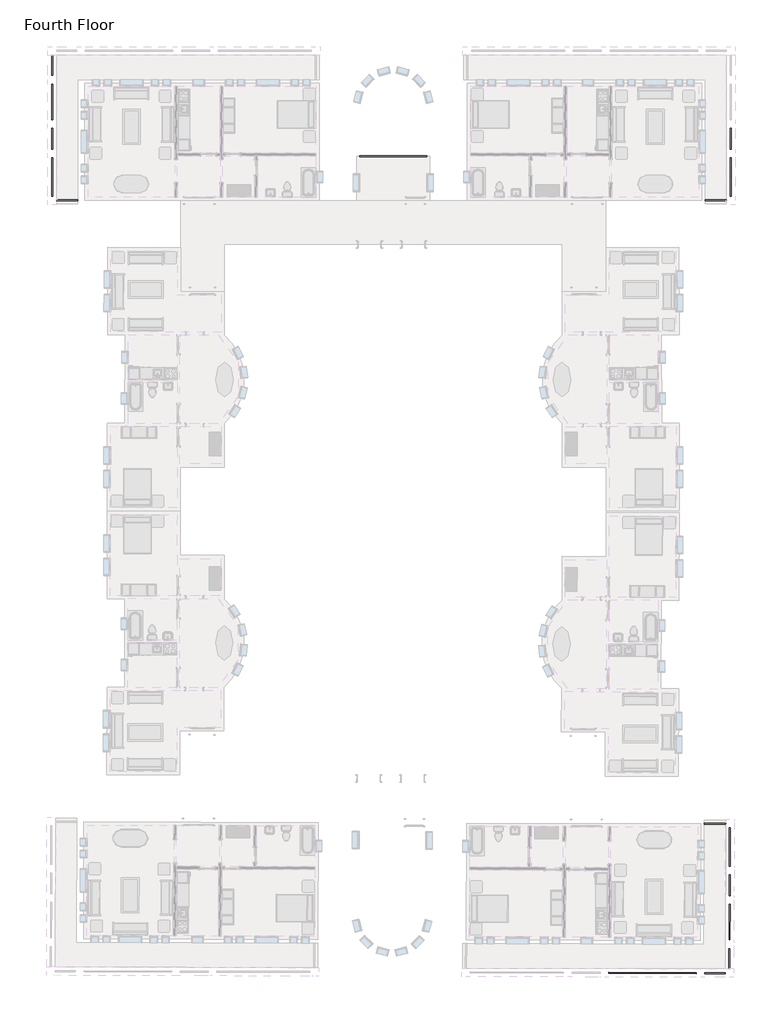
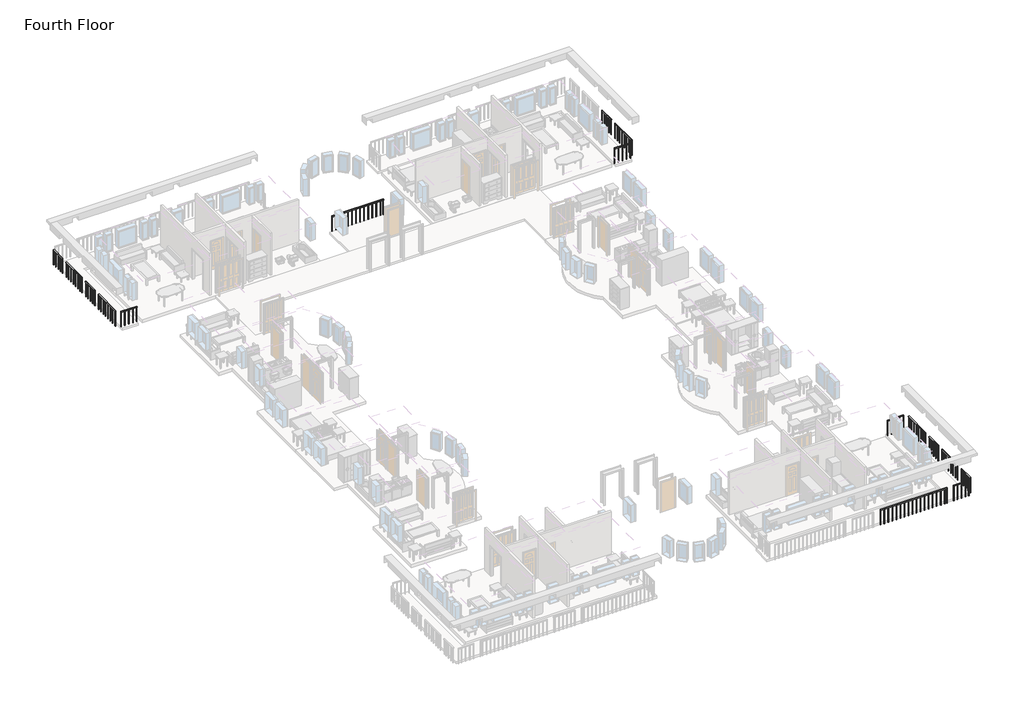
# One storey, part 5 of 8: 16 railings.
"""IFC4 building model written with IfcOpenShell, lengths in millimetres."""

from ifc_helpers import new_model, si_unit, frame, origin, place, context, project, spatial, polyline, outline, extrude, element, save

model = new_model("IFC4")

# Units and contexts
model_context = context("Model", 3, world=origin())
ifc_project = project(units=[si_unit("LENGTHUNIT", "METRE", prefix="MILLI")], contexts=[model_context])

# Site, building, storey
site = spatial("IfcSite", under=ifc_project)
building = spatial("IfcBuilding", under=site)
storey = spatial("IfcBuildingStorey", under=building, Name="Fourth Floor", Elevation=9144.0)

# Railings
placement = place(None, origin())
element("IfcRailing", 1, ObjectType="1100mm", at=placement, inside=storey, context=model_context, shape_type="SweptSolid", body=[
    extrude(outline(polyline([(-1443.3416203, 231.1188386), (-1393.3416203, 231.1188386), (-1393.3416203, -845.3811614), (-1443.3416203, -845.3811614), (-1443.3416203, 231.1188386)])), frame((0.0, 0.0, 10194.0), z_axis=(0.0, 0.0, 1.0), x_axis=(1.0, 0.0, 0.0)), (0.0, 0.0, 1.0), 50.0),
    extrude(outline(polyline([(-1430.8416203, -581.3811614), (-1405.8416203, -581.3811614), (-1405.8416203, -606.3811614), (-1430.8416203, -606.3811614), (-1430.8416203, -581.3811614)])), frame((0.0, 0.0, 9144.0), z_axis=(0.0, 0.0, 1.0), x_axis=(1.0, 0.0, 0.0)), (0.0, 0.0, 1.0), 1050.0),
    extrude(outline(polyline([(-1430.8416203, -306.3811614), (-1405.8416203, -306.3811614), (-1405.8416203, -331.3811614), (-1430.8416203, -331.3811614), (-1430.8416203, -306.3811614)])), frame((0.0, 0.0, 9144.0), z_axis=(0.0, 0.0, 1.0), x_axis=(1.0, 0.0, 0.0)), (0.0, 0.0, 1.0), 1050.0),
    extrude(outline(polyline([(-1430.8416203, -31.3811614), (-1405.8416203, -31.3811614), (-1405.8416203, -56.3811614), (-1430.8416203, -56.3811614), (-1430.8416203, -31.3811614)])), frame((0.0, 0.0, 9144.0), z_axis=(0.0, 0.0, 1.0), x_axis=(1.0, 0.0, 0.0)), (0.0, 0.0, 1.0), 1050.0),
    extrude(outline(polyline([(-1430.8416203, -820.3811614), (-1405.8416203, -820.3811614), (-1405.8416203, -845.3811614), (-1430.8416203, -845.3811614), (-1430.8416203, -820.3811614)])), frame((0.0, 0.0, 9144.0), z_axis=(0.0, 0.0, 1.0), x_axis=(1.0, 0.0, 0.0)), (0.0, 0.0, 1.0), 1050.0),
    extrude(outline(polyline([(-1430.8416203, 231.1188386), (-1405.8416203, 231.1188386), (-1405.8416203, 206.1188386), (-1430.8416203, 206.1188386), (-1430.8416203, 231.1188386)])), frame((0.0, 0.0, 9144.0), z_axis=(0.0, 0.0, 1.0), x_axis=(1.0, 0.0, 0.0)), (0.0, 0.0, 1.0), 1050.0),
])
element("IfcRailing", 2, ObjectType="1100mm", at=placement, inside=storey, context=model_context, shape_type="SweptSolid", body=[
    extrude(outline(polyline([(-1443.3416203, -1295.3811614), (-1393.3416203, -1295.3811614), (-1393.3416203, -3289.8811614), (-1443.3416203, -3289.8811614), (-1443.3416203, -1295.3811614)])), frame((0.0, 0.0, 10194.0), z_axis=(0.0, 0.0, 1.0), x_axis=(1.0, 0.0, 0.0)), (0.0, 0.0, 1.0), 50.0),
    extrude(outline(polyline([(-1430.8416203, -3207.8811614), (-1405.8416203, -3207.8811614), (-1405.8416203, -3232.8811614), (-1430.8416203, -3232.8811614), (-1430.8416203, -3207.8811614)])), frame((0.0, 0.0, 9144.0), z_axis=(0.0, 0.0, 1.0), x_axis=(1.0, 0.0, 0.0)), (0.0, 0.0, 1.0), 1050.0),
    extrude(outline(polyline([(-1430.8416203, -2932.8811614), (-1405.8416203, -2932.8811614), (-1405.8416203, -2957.8811614), (-1430.8416203, -2957.8811614), (-1430.8416203, -2932.8811614)])), frame((0.0, 0.0, 9144.0), z_axis=(0.0, 0.0, 1.0), x_axis=(1.0, 0.0, 0.0)), (0.0, 0.0, 1.0), 1050.0),
    extrude(outline(polyline([(-1430.8416203, -2657.8811614), (-1405.8416203, -2657.8811614), (-1405.8416203, -2682.8811614), (-1430.8416203, -2682.8811614), (-1430.8416203, -2657.8811614)])), frame((0.0, 0.0, 9144.0), z_axis=(0.0, 0.0, 1.0), x_axis=(1.0, 0.0, 0.0)), (0.0, 0.0, 1.0), 1050.0),
    extrude(outline(polyline([(-1430.8416203, -2382.8811614), (-1405.8416203, -2382.8811614), (-1405.8416203, -2407.8811614), (-1430.8416203, -2407.8811614), (-1430.8416203, -2382.8811614)])), frame((0.0, 0.0, 9144.0), z_axis=(0.0, 0.0, 1.0), x_axis=(1.0, 0.0, 0.0)), (0.0, 0.0, 1.0), 1050.0),
    extrude(outline(polyline([(-1430.8416203, -2107.8811614), (-1405.8416203, -2107.8811614), (-1405.8416203, -2132.8811614), (-1430.8416203, -2132.8811614), (-1430.8416203, -2107.8811614)])), frame((0.0, 0.0, 9144.0), z_axis=(0.0, 0.0, 1.0), x_axis=(1.0, 0.0, 0.0)), (0.0, 0.0, 1.0), 1050.0),
    extrude(outline(polyline([(-1430.8416203, -1832.8811614), (-1405.8416203, -1832.8811614), (-1405.8416203, -1857.8811614), (-1430.8416203, -1857.8811614), (-1430.8416203, -1832.8811614)])), frame((0.0, 0.0, 9144.0), z_axis=(0.0, 0.0, 1.0), x_axis=(1.0, 0.0, 0.0)), (0.0, 0.0, 1.0), 1050.0),
    extrude(outline(polyline([(-1430.8416203, -1557.8811614), (-1405.8416203, -1557.8811614), (-1405.8416203, -1582.8811614), (-1430.8416203, -1582.8811614), (-1430.8416203, -1557.8811614)])), frame((0.0, 0.0, 9144.0), z_axis=(0.0, 0.0, 1.0), x_axis=(1.0, 0.0, 0.0)), (0.0, 0.0, 1.0), 1050.0),
    extrude(outline(polyline([(-1430.8416203, -3264.8811614), (-1405.8416203, -3264.8811614), (-1405.8416203, -3289.8811614), (-1430.8416203, -3289.8811614), (-1430.8416203, -3264.8811614)])), frame((0.0, 0.0, 9144.0), z_axis=(0.0, 0.0, 1.0), x_axis=(1.0, 0.0, 0.0)), (0.0, 0.0, 1.0), 1050.0),
    extrude(outline(polyline([(-1430.8416203, -1295.3811614), (-1405.8416203, -1295.3811614), (-1405.8416203, -1320.3811614), (-1430.8416203, -1320.3811614), (-1430.8416203, -1295.3811614)])), frame((0.0, 0.0, 9144.0), z_axis=(0.0, 0.0, 1.0), x_axis=(1.0, 0.0, 0.0)), (0.0, 0.0, 1.0), 1050.0),
])
element("IfcRailing", 3, ObjectType="1100mm", at=placement, inside=storey, context=model_context, shape_type="SweptSolid", body=[
    extrude(outline(polyline([(-1643.3416203, -3489.8811614), (-1643.3416203, -3539.8811614), (-2743.3416203, -3539.8811614), (-2743.3416203, -3489.8811614), (-1643.3416203, -3489.8811614)])), frame((0.0, 0.0, 10194.0), z_axis=(0.0, 0.0, 1.0), x_axis=(1.0, 0.0, 0.0)), (0.0, 0.0, 1.0), 50.0),
    extrude(outline(polyline([(-2455.8416203, -3502.3811614), (-2455.8416203, -3527.3811614), (-2480.8416203, -3527.3811614), (-2480.8416203, -3502.3811614), (-2455.8416203, -3502.3811614)])), frame((0.0, 0.0, 9144.0), z_axis=(0.0, 0.0, 1.0), x_axis=(1.0, 0.0, 0.0)), (0.0, 0.0, 1.0), 1050.0),
    extrude(outline(polyline([(-2180.8416203, -3502.3811614), (-2180.8416203, -3527.3811614), (-2205.8416203, -3527.3811614), (-2205.8416203, -3502.3811614), (-2180.8416203, -3502.3811614)])), frame((0.0, 0.0, 9144.0), z_axis=(0.0, 0.0, 1.0), x_axis=(1.0, 0.0, 0.0)), (0.0, 0.0, 1.0), 1050.0),
    extrude(outline(polyline([(-1905.8416203, -3502.3811614), (-1905.8416203, -3527.3811614), (-1930.8416203, -3527.3811614), (-1930.8416203, -3502.3811614), (-1905.8416203, -3502.3811614)])), frame((0.0, 0.0, 9144.0), z_axis=(0.0, 0.0, 1.0), x_axis=(1.0, 0.0, 0.0)), (0.0, 0.0, 1.0), 1050.0),
    extrude(outline(polyline([(-2718.3416203, -3502.3811614), (-2718.3416203, -3527.3811614), (-2743.3416203, -3527.3811614), (-2743.3416203, -3502.3811614), (-2718.3416203, -3502.3811614)])), frame((0.0, 0.0, 9144.0), z_axis=(0.0, 0.0, 1.0), x_axis=(1.0, 0.0, 0.0)), (0.0, 0.0, 1.0), 1050.0),
    extrude(outline(polyline([(-1643.3416203, -3502.3811614), (-1643.3416203, -3527.3811614), (-1668.3416203, -3527.3811614), (-1668.3416203, -3502.3811614), (-1643.3416203, -3502.3811614)])), frame((0.0, 0.0, 9144.0), z_axis=(0.0, 0.0, 1.0), x_axis=(1.0, 0.0, 0.0)), (0.0, 0.0, 1.0), 1050.0),
])
element("IfcRailing", 4, ObjectType="1100mm", at=placement, inside=storey, context=model_context, shape_type="SweptSolid", body=[
    extrude(outline(polyline([(-20709.0916203, -1253.8811614), (-20709.0916203, -1203.8811614), (-17205.0916203, -1203.8811614), (-17205.0916203, -1253.8811614), (-20709.0916203, -1253.8811614)])), frame((0.0, 0.0, 10194.0), z_axis=(0.0, 0.0, 1.0), x_axis=(1.0, 0.0, 0.0)), (0.0, 0.0, 1.0), 50.0),
    extrude(outline(polyline([(-17421.5916203, -1241.3811614), (-17421.5916203, -1216.3811614), (-17396.5916203, -1216.3811614), (-17396.5916203, -1241.3811614), (-17421.5916203, -1241.3811614)])), frame((0.0, 0.0, 9144.0), z_axis=(0.0, 0.0, 1.0), x_axis=(1.0, 0.0, 0.0)), (0.0, 0.0, 1.0), 1050.0),
    extrude(outline(polyline([(-17696.5916203, -1241.3811614), (-17696.5916203, -1216.3811614), (-17671.5916203, -1216.3811614), (-17671.5916203, -1241.3811614), (-17696.5916203, -1241.3811614)])), frame((0.0, 0.0, 9144.0), z_axis=(0.0, 0.0, 1.0), x_axis=(1.0, 0.0, 0.0)), (0.0, 0.0, 1.0), 1050.0),
    extrude(outline(polyline([(-17971.5916203, -1241.3811614), (-17971.5916203, -1216.3811614), (-17946.5916203, -1216.3811614), (-17946.5916203, -1241.3811614), (-17971.5916203, -1241.3811614)])), frame((0.0, 0.0, 9144.0), z_axis=(0.0, 0.0, 1.0), x_axis=(1.0, 0.0, 0.0)), (0.0, 0.0, 1.0), 1050.0),
    extrude(outline(polyline([(-18246.5916203, -1241.3811614), (-18246.5916203, -1216.3811614), (-18221.5916203, -1216.3811614), (-18221.5916203, -1241.3811614), (-18246.5916203, -1241.3811614)])), frame((0.0, 0.0, 9144.0), z_axis=(0.0, 0.0, 1.0), x_axis=(1.0, 0.0, 0.0)), (0.0, 0.0, 1.0), 1050.0),
    extrude(outline(polyline([(-18521.5916203, -1241.3811614), (-18521.5916203, -1216.3811614), (-18496.5916203, -1216.3811614), (-18496.5916203, -1241.3811614), (-18521.5916203, -1241.3811614)])), frame((0.0, 0.0, 9144.0), z_axis=(0.0, 0.0, 1.0), x_axis=(1.0, 0.0, 0.0)), (0.0, 0.0, 1.0), 1050.0),
    extrude(outline(polyline([(-18796.5916203, -1241.3811614), (-18796.5916203, -1216.3811614), (-18771.5916203, -1216.3811614), (-18771.5916203, -1241.3811614), (-18796.5916203, -1241.3811614)])), frame((0.0, 0.0, 9144.0), z_axis=(0.0, 0.0, 1.0), x_axis=(1.0, 0.0, 0.0)), (0.0, 0.0, 1.0), 1050.0),
    extrude(outline(polyline([(-19071.5916203, -1241.3811614), (-19071.5916203, -1216.3811614), (-19046.5916203, -1216.3811614), (-19046.5916203, -1241.3811614), (-19071.5916203, -1241.3811614)])), frame((0.0, 0.0, 9144.0), z_axis=(0.0, 0.0, 1.0), x_axis=(1.0, 0.0, 0.0)), (0.0, 0.0, 1.0), 1050.0),
    extrude(outline(polyline([(-19346.5916203, -1241.3811614), (-19346.5916203, -1216.3811614), (-19321.5916203, -1216.3811614), (-19321.5916203, -1241.3811614), (-19346.5916203, -1241.3811614)])), frame((0.0, 0.0, 9144.0), z_axis=(0.0, 0.0, 1.0), x_axis=(1.0, 0.0, 0.0)), (0.0, 0.0, 1.0), 1050.0),
    extrude(outline(polyline([(-19621.5916203, -1241.3811614), (-19621.5916203, -1216.3811614), (-19596.5916203, -1216.3811614), (-19596.5916203, -1241.3811614), (-19621.5916203, -1241.3811614)])), frame((0.0, 0.0, 9144.0), z_axis=(0.0, 0.0, 1.0), x_axis=(1.0, 0.0, 0.0)), (0.0, 0.0, 1.0), 1050.0),
    extrude(outline(polyline([(-19896.5916203, -1241.3811614), (-19896.5916203, -1216.3811614), (-19871.5916203, -1216.3811614), (-19871.5916203, -1241.3811614), (-19896.5916203, -1241.3811614)])), frame((0.0, 0.0, 9144.0), z_axis=(0.0, 0.0, 1.0), x_axis=(1.0, 0.0, 0.0)), (0.0, 0.0, 1.0), 1050.0),
    extrude(outline(polyline([(-20171.5916203, -1241.3811614), (-20171.5916203, -1216.3811614), (-20146.5916203, -1216.3811614), (-20146.5916203, -1241.3811614), (-20171.5916203, -1241.3811614)])), frame((0.0, 0.0, 9144.0), z_axis=(0.0, 0.0, 1.0), x_axis=(1.0, 0.0, 0.0)), (0.0, 0.0, 1.0), 1050.0),
    extrude(outline(polyline([(-20446.5916203, -1241.3811614), (-20446.5916203, -1216.3811614), (-20421.5916203, -1216.3811614), (-20421.5916203, -1241.3811614), (-20446.5916203, -1241.3811614)])), frame((0.0, 0.0, 9144.0), z_axis=(0.0, 0.0, 1.0), x_axis=(1.0, 0.0, 0.0)), (0.0, 0.0, 1.0), 1050.0),
    extrude(outline(polyline([(-17230.0916203, -1241.3811614), (-17230.0916203, -1216.3811614), (-17205.0916203, -1216.3811614), (-17205.0916203, -1241.3811614), (-17230.0916203, -1241.3811614)])), frame((0.0, 0.0, 9144.0), z_axis=(0.0, 0.0, 1.0), x_axis=(1.0, 0.0, 0.0)), (0.0, 0.0, 1.0), 1050.0),
    extrude(outline(polyline([(-20709.0916203, -1241.3811614), (-20709.0916203, -1216.3811614), (-20684.0916203, -1216.3811614), (-20684.0916203, -1241.3811614), (-20709.0916203, -1241.3811614)])), frame((0.0, 0.0, 9144.0), z_axis=(0.0, 0.0, 1.0), x_axis=(1.0, 0.0, 0.0)), (0.0, 0.0, 1.0), 1050.0),
])
element("IfcRailing", 5, ObjectType="1100mm", at=placement, inside=storey, context=model_context, shape_type="SweptSolid", body=[
    extrude(outline(polyline([(-36708.8416203, 4031.1188386), (-36658.8416203, 4031.1188386), (-36658.8416203, 2981.1188386), (-36708.8416203, 2981.1188386), (-36708.8416203, 4031.1188386)])), frame((0.0, 0.0, 10194.0), z_axis=(0.0, 0.0, 1.0), x_axis=(1.0, 0.0, 0.0)), (0.0, 0.0, 1.0), 50.0),
    extrude(outline(polyline([(-36671.3416203, 3218.6188386), (-36671.3416203, 3193.6188386), (-36696.3416203, 3193.6188386), (-36696.3416203, 3218.6188386), (-36671.3416203, 3218.6188386)])), frame((0.0, 0.0, 9144.0), z_axis=(0.0, 0.0, 1.0), x_axis=(1.0, 0.0, 0.0)), (0.0, 0.0, 1.0), 1050.0),
    extrude(outline(polyline([(-36671.3416203, 3493.6188386), (-36671.3416203, 3468.6188386), (-36696.3416203, 3468.6188386), (-36696.3416203, 3493.6188386), (-36671.3416203, 3493.6188386)])), frame((0.0, 0.0, 9144.0), z_axis=(0.0, 0.0, 1.0), x_axis=(1.0, 0.0, 0.0)), (0.0, 0.0, 1.0), 1050.0),
    extrude(outline(polyline([(-36671.3416203, 3768.6188386), (-36671.3416203, 3743.6188386), (-36696.3416203, 3743.6188386), (-36696.3416203, 3768.6188386), (-36671.3416203, 3768.6188386)])), frame((0.0, 0.0, 9144.0), z_axis=(0.0, 0.0, 1.0), x_axis=(1.0, 0.0, 0.0)), (0.0, 0.0, 1.0), 1050.0),
    extrude(outline(polyline([(-36671.3416203, 3006.1188386), (-36671.3416203, 2981.1188386), (-36696.3416203, 2981.1188386), (-36696.3416203, 3006.1188386), (-36671.3416203, 3006.1188386)])), frame((0.0, 0.0, 9144.0), z_axis=(0.0, 0.0, 1.0), x_axis=(1.0, 0.0, 0.0)), (0.0, 0.0, 1.0), 1050.0),
    extrude(outline(polyline([(-36671.3416203, 4031.1188386), (-36671.3416203, 4006.1188386), (-36696.3416203, 4006.1188386), (-36696.3416203, 4031.1188386), (-36671.3416203, 4031.1188386)])), frame((0.0, 0.0, 9144.0), z_axis=(0.0, 0.0, 1.0), x_axis=(1.0, 0.0, 0.0)), (0.0, 0.0, 1.0), 1050.0),
])
element("IfcRailing", 6, ObjectType="1100mm", at=placement, inside=storey, context=model_context, shape_type="SweptSolid", body=[
    extrude(outline(polyline([(-36708.8416203, 2531.1188386), (-36658.8416203, 2531.1188386), (-36658.8416203, 681.1188386), (-36708.8416203, 681.1188386), (-36708.8416203, 2531.1188386)])), frame((0.0, 0.0, 10194.0), z_axis=(0.0, 0.0, 1.0), x_axis=(1.0, 0.0, 0.0)), (0.0, 0.0, 1.0), 50.0),
    extrude(outline(polyline([(-36671.3416203, 893.6188386), (-36671.3416203, 868.6188386), (-36696.3416203, 868.6188386), (-36696.3416203, 893.6188386), (-36671.3416203, 893.6188386)])), frame((0.0, 0.0, 9144.0), z_axis=(0.0, 0.0, 1.0), x_axis=(1.0, 0.0, 0.0)), (0.0, 0.0, 1.0), 1050.0),
    extrude(outline(polyline([(-36671.3416203, 1168.6188386), (-36671.3416203, 1143.6188386), (-36696.3416203, 1143.6188386), (-36696.3416203, 1168.6188386), (-36671.3416203, 1168.6188386)])), frame((0.0, 0.0, 9144.0), z_axis=(0.0, 0.0, 1.0), x_axis=(1.0, 0.0, 0.0)), (0.0, 0.0, 1.0), 1050.0),
    extrude(outline(polyline([(-36671.3416203, 1443.6188386), (-36671.3416203, 1418.6188386), (-36696.3416203, 1418.6188386), (-36696.3416203, 1443.6188386), (-36671.3416203, 1443.6188386)])), frame((0.0, 0.0, 9144.0), z_axis=(0.0, 0.0, 1.0), x_axis=(1.0, 0.0, 0.0)), (0.0, 0.0, 1.0), 1050.0),
    extrude(outline(polyline([(-36671.3416203, 1718.6188386), (-36671.3416203, 1693.6188386), (-36696.3416203, 1693.6188386), (-36696.3416203, 1718.6188386), (-36671.3416203, 1718.6188386)])), frame((0.0, 0.0, 9144.0), z_axis=(0.0, 0.0, 1.0), x_axis=(1.0, 0.0, 0.0)), (0.0, 0.0, 1.0), 1050.0),
    extrude(outline(polyline([(-36671.3416203, 1993.6188386), (-36671.3416203, 1968.6188386), (-36696.3416203, 1968.6188386), (-36696.3416203, 1993.6188386), (-36671.3416203, 1993.6188386)])), frame((0.0, 0.0, 9144.0), z_axis=(0.0, 0.0, 1.0), x_axis=(1.0, 0.0, 0.0)), (0.0, 0.0, 1.0), 1050.0),
    extrude(outline(polyline([(-36671.3416203, 2268.6188386), (-36671.3416203, 2243.6188386), (-36696.3416203, 2243.6188386), (-36696.3416203, 2268.6188386), (-36671.3416203, 2268.6188386)])), frame((0.0, 0.0, 9144.0), z_axis=(0.0, 0.0, 1.0), x_axis=(1.0, 0.0, 0.0)), (0.0, 0.0, 1.0), 1050.0),
    extrude(outline(polyline([(-36671.3416203, 706.1188386), (-36671.3416203, 681.1188386), (-36696.3416203, 681.1188386), (-36696.3416203, 706.1188386), (-36671.3416203, 706.1188386)])), frame((0.0, 0.0, 9144.0), z_axis=(0.0, 0.0, 1.0), x_axis=(1.0, 0.0, 0.0)), (0.0, 0.0, 1.0), 1050.0),
    extrude(outline(polyline([(-36671.3416203, 2531.1188386), (-36671.3416203, 2506.1188386), (-36696.3416203, 2506.1188386), (-36696.3416203, 2531.1188386), (-36671.3416203, 2531.1188386)])), frame((0.0, 0.0, 9144.0), z_axis=(0.0, 0.0, 1.0), x_axis=(1.0, 0.0, 0.0)), (0.0, 0.0, 1.0), 1050.0),
])
element("IfcRailing", 7, ObjectType="1100mm", at=placement, inside=storey, context=model_context, shape_type="SweptSolid", body=[
    extrude(outline(polyline([(-36708.8416203, 231.1188386), (-36658.8416203, 231.1188386), (-36658.8416203, -845.3811614), (-36708.8416203, -845.3811614), (-36708.8416203, 231.1188386)])), frame((0.0, 0.0, 10194.0), z_axis=(0.0, 0.0, 1.0), x_axis=(1.0, 0.0, 0.0)), (0.0, 0.0, 1.0), 50.0),
    extrude(outline(polyline([(-36671.3416203, -581.3811614), (-36671.3416203, -606.3811614), (-36696.3416203, -606.3811614), (-36696.3416203, -581.3811614), (-36671.3416203, -581.3811614)])), frame((0.0, 0.0, 9144.0), z_axis=(0.0, 0.0, 1.0), x_axis=(1.0, 0.0, 0.0)), (0.0, 0.0, 1.0), 1050.0),
    extrude(outline(polyline([(-36671.3416203, -306.3811614), (-36671.3416203, -331.3811614), (-36696.3416203, -331.3811614), (-36696.3416203, -306.3811614), (-36671.3416203, -306.3811614)])), frame((0.0, 0.0, 9144.0), z_axis=(0.0, 0.0, 1.0), x_axis=(1.0, 0.0, 0.0)), (0.0, 0.0, 1.0), 1050.0),
    extrude(outline(polyline([(-36671.3416203, -31.3811614), (-36671.3416203, -56.3811614), (-36696.3416203, -56.3811614), (-36696.3416203, -31.3811614), (-36671.3416203, -31.3811614)])), frame((0.0, 0.0, 9144.0), z_axis=(0.0, 0.0, 1.0), x_axis=(1.0, 0.0, 0.0)), (0.0, 0.0, 1.0), 1050.0),
    extrude(outline(polyline([(-36671.3416203, -820.3811614), (-36671.3416203, -845.3811614), (-36696.3416203, -845.3811614), (-36696.3416203, -820.3811614), (-36671.3416203, -820.3811614)])), frame((0.0, 0.0, 9144.0), z_axis=(0.0, 0.0, 1.0), x_axis=(1.0, 0.0, 0.0)), (0.0, 0.0, 1.0), 1050.0),
    extrude(outline(polyline([(-36671.3416203, 231.1188386), (-36671.3416203, 206.1188386), (-36696.3416203, 206.1188386), (-36696.3416203, 231.1188386), (-36671.3416203, 231.1188386)])), frame((0.0, 0.0, 9144.0), z_axis=(0.0, 0.0, 1.0), x_axis=(1.0, 0.0, 0.0)), (0.0, 0.0, 1.0), 1050.0),
])
element("IfcRailing", 8, ObjectType="1100mm", at=placement, inside=storey, context=model_context, shape_type="SweptSolid", body=[
    extrude(outline(polyline([(-36708.8416203, -1295.3811614), (-36658.8416203, -1295.3811614), (-36658.8416203, -3289.8811614), (-36708.8416203, -3289.8811614), (-36708.8416203, -1295.3811614)])), frame((0.0, 0.0, 10194.0), z_axis=(0.0, 0.0, 1.0), x_axis=(1.0, 0.0, 0.0)), (0.0, 0.0, 1.0), 50.0),
    extrude(outline(polyline([(-36671.3416203, -3207.8811614), (-36671.3416203, -3232.8811614), (-36696.3416203, -3232.8811614), (-36696.3416203, -3207.8811614), (-36671.3416203, -3207.8811614)])), frame((0.0, 0.0, 9144.0), z_axis=(0.0, 0.0, 1.0), x_axis=(1.0, 0.0, 0.0)), (0.0, 0.0, 1.0), 1050.0),
    extrude(outline(polyline([(-36671.3416203, -2932.8811614), (-36671.3416203, -2957.8811614), (-36696.3416203, -2957.8811614), (-36696.3416203, -2932.8811614), (-36671.3416203, -2932.8811614)])), frame((0.0, 0.0, 9144.0), z_axis=(0.0, 0.0, 1.0), x_axis=(1.0, 0.0, 0.0)), (0.0, 0.0, 1.0), 1050.0),
    extrude(outline(polyline([(-36671.3416203, -2657.8811614), (-36671.3416203, -2682.8811614), (-36696.3416203, -2682.8811614), (-36696.3416203, -2657.8811614), (-36671.3416203, -2657.8811614)])), frame((0.0, 0.0, 9144.0), z_axis=(0.0, 0.0, 1.0), x_axis=(1.0, 0.0, 0.0)), (0.0, 0.0, 1.0), 1050.0),
    extrude(outline(polyline([(-36671.3416203, -2382.8811614), (-36671.3416203, -2407.8811614), (-36696.3416203, -2407.8811614), (-36696.3416203, -2382.8811614), (-36671.3416203, -2382.8811614)])), frame((0.0, 0.0, 9144.0), z_axis=(0.0, 0.0, 1.0), x_axis=(1.0, 0.0, 0.0)), (0.0, 0.0, 1.0), 1050.0),
    extrude(outline(polyline([(-36671.3416203, -2107.8811614), (-36671.3416203, -2132.8811614), (-36696.3416203, -2132.8811614), (-36696.3416203, -2107.8811614), (-36671.3416203, -2107.8811614)])), frame((0.0, 0.0, 9144.0), z_axis=(0.0, 0.0, 1.0), x_axis=(1.0, 0.0, 0.0)), (0.0, 0.0, 1.0), 1050.0),
    extrude(outline(polyline([(-36671.3416203, -1832.8811614), (-36671.3416203, -1857.8811614), (-36696.3416203, -1857.8811614), (-36696.3416203, -1832.8811614), (-36671.3416203, -1832.8811614)])), frame((0.0, 0.0, 9144.0), z_axis=(0.0, 0.0, 1.0), x_axis=(1.0, 0.0, 0.0)), (0.0, 0.0, 1.0), 1050.0),
    extrude(outline(polyline([(-36671.3416203, -1557.8811614), (-36671.3416203, -1582.8811614), (-36696.3416203, -1582.8811614), (-36696.3416203, -1557.8811614), (-36671.3416203, -1557.8811614)])), frame((0.0, 0.0, 9144.0), z_axis=(0.0, 0.0, 1.0), x_axis=(1.0, 0.0, 0.0)), (0.0, 0.0, 1.0), 1050.0),
    extrude(outline(polyline([(-36671.3416203, -3264.8811614), (-36671.3416203, -3289.8811614), (-36696.3416203, -3289.8811614), (-36696.3416203, -3264.8811614), (-36671.3416203, -3264.8811614)])), frame((0.0, 0.0, 9144.0), z_axis=(0.0, 0.0, 1.0), x_axis=(1.0, 0.0, 0.0)), (0.0, 0.0, 1.0), 1050.0),
    extrude(outline(polyline([(-36671.3416203, -1295.3811614), (-36671.3416203, -1320.3811614), (-36696.3416203, -1320.3811614), (-36696.3416203, -1295.3811614), (-36671.3416203, -1295.3811614)])), frame((0.0, 0.0, 9144.0), z_axis=(0.0, 0.0, 1.0), x_axis=(1.0, 0.0, 0.0)), (0.0, 0.0, 1.0), 1050.0),
])
element("IfcRailing", 9, ObjectType="1100mm", at=placement, inside=storey, context=model_context, shape_type="SweptSolid", body=[
    extrude(outline(polyline([(-36458.8416203, -3539.8811614), (-36458.8416203, -3489.8811614), (-35358.8416203, -3489.8811614), (-35358.8416203, -3539.8811614), (-36458.8416203, -3539.8811614)])), frame((0.0, 0.0, 10194.0), z_axis=(0.0, 0.0, 1.0), x_axis=(1.0, 0.0, 0.0)), (0.0, 0.0, 1.0), 50.0),
    extrude(outline(polyline([(-35646.3416203, -3502.3811614), (-35621.3416203, -3502.3811614), (-35621.3416203, -3527.3811614), (-35646.3416203, -3527.3811614), (-35646.3416203, -3502.3811614)])), frame((0.0, 0.0, 9144.0), z_axis=(0.0, 0.0, 1.0), x_axis=(1.0, 0.0, 0.0)), (0.0, 0.0, 1.0), 1050.0),
    extrude(outline(polyline([(-35921.3416203, -3502.3811614), (-35896.3416203, -3502.3811614), (-35896.3416203, -3527.3811614), (-35921.3416203, -3527.3811614), (-35921.3416203, -3502.3811614)])), frame((0.0, 0.0, 9144.0), z_axis=(0.0, 0.0, 1.0), x_axis=(1.0, 0.0, 0.0)), (0.0, 0.0, 1.0), 1050.0),
    extrude(outline(polyline([(-36196.3416203, -3502.3811614), (-36171.3416203, -3502.3811614), (-36171.3416203, -3527.3811614), (-36196.3416203, -3527.3811614), (-36196.3416203, -3502.3811614)])), frame((0.0, 0.0, 9144.0), z_axis=(0.0, 0.0, 1.0), x_axis=(1.0, 0.0, 0.0)), (0.0, 0.0, 1.0), 1050.0),
    extrude(outline(polyline([(-35383.8416203, -3502.3811614), (-35358.8416203, -3502.3811614), (-35358.8416203, -3527.3811614), (-35383.8416203, -3527.3811614), (-35383.8416203, -3502.3811614)])), frame((0.0, 0.0, 9144.0), z_axis=(0.0, 0.0, 1.0), x_axis=(1.0, 0.0, 0.0)), (0.0, 0.0, 1.0), 1050.0),
    extrude(outline(polyline([(-36458.8416203, -3502.3811614), (-36433.8416203, -3502.3811614), (-36433.8416203, -3527.3811614), (-36458.8416203, -3527.3811614), (-36458.8416203, -3502.3811614)])), frame((0.0, 0.0, 9144.0), z_axis=(0.0, 0.0, 1.0), x_axis=(1.0, 0.0, 0.0)), (0.0, 0.0, 1.0), 1050.0),
])
element("IfcRailing", 10, ObjectType="1100mm", at=placement, inside=storey, context=model_context, shape_type="SweptSolid", body=[
    extrude(outline(polyline([(-7762.7673241, -43683.6906721), (-7762.6225814, -43633.6908816), (-3212.6416463, -43646.8624669), (-3212.786389, -43696.8622574), (-7762.7673241, -43683.6906721)])), frame((0.0, 0.0, 10194.0), z_axis=(0.0, 0.0, 1.0), x_axis=(1.0, 0.0, 0.0)), (0.0, 0.0, 1.0), 50.0),
    extrude(outline(polyline([(-3375.1771511, -43658.8920008), (-3350.1772558, -43658.9643721), (-3350.2496272, -43683.9642674), (-3375.2495224, -43683.891896), (-3375.1771511, -43658.8920008)])), frame((0.0, 0.0, 9144.0), z_axis=(0.0, 0.0, 1.0), x_axis=(1.0, 0.0, 0.0)), (0.0, 0.0, 1.0), 1050.0),
    extrude(outline(polyline([(-3650.1759988, -43658.095916), (-3625.1761036, -43658.1682873), (-3625.2484749, -43683.1681826), (-3650.2483702, -43683.0958112), (-3650.1759988, -43658.095916)])), frame((0.0, 0.0, 9144.0), z_axis=(0.0, 0.0, 1.0), x_axis=(1.0, 0.0, 0.0)), (0.0, 0.0, 1.0), 1050.0),
    extrude(outline(polyline([(-3925.1748465, -43657.2998311), (-3900.1749513, -43657.3722025), (-3900.2473226, -43682.3720977), (-3925.2472179, -43682.2997264), (-3925.1748465, -43657.2998311)])), frame((0.0, 0.0, 9144.0), z_axis=(0.0, 0.0, 1.0), x_axis=(1.0, 0.0, 0.0)), (0.0, 0.0, 1.0), 1050.0),
    extrude(outline(polyline([(-4200.1736943, -43656.5037463), (-4175.173799, -43656.5761177), (-4175.2461704, -43681.5760129), (-4200.2460656, -43681.5036416), (-4200.1736943, -43656.5037463)])), frame((0.0, 0.0, 9144.0), z_axis=(0.0, 0.0, 1.0), x_axis=(1.0, 0.0, 0.0)), (0.0, 0.0, 1.0), 1050.0),
    extrude(outline(polyline([(-4475.172542, -43655.7076615), (-4450.1726467, -43655.7800328), (-4450.2450181, -43680.7799281), (-4475.2449133, -43680.7075567), (-4475.172542, -43655.7076615)])), frame((0.0, 0.0, 9144.0), z_axis=(0.0, 0.0, 1.0), x_axis=(1.0, 0.0, 0.0)), (0.0, 0.0, 1.0), 1050.0),
    extrude(outline(polyline([(-4750.1713897, -43654.9115767), (-4725.1714945, -43654.983948), (-4725.2438658, -43679.9838433), (-4750.243761, -43679.9114719), (-4750.1713897, -43654.9115767)])), frame((0.0, 0.0, 9144.0), z_axis=(0.0, 0.0, 1.0), x_axis=(1.0, 0.0, 0.0)), (0.0, 0.0, 1.0), 1050.0),
    extrude(outline(polyline([(-5025.1702374, -43654.1154918), (-5000.1703422, -43654.1878632), (-5000.2427135, -43679.1877584), (-5025.2426088, -43679.1153871), (-5025.1702374, -43654.1154918)])), frame((0.0, 0.0, 9144.0), z_axis=(0.0, 0.0, 1.0), x_axis=(1.0, 0.0, 0.0)), (0.0, 0.0, 1.0), 1050.0),
    extrude(outline(polyline([(-5300.1690851, -43653.319407), (-5275.1691899, -43653.3917784), (-5275.2415612, -43678.3916736), (-5300.2414565, -43678.3193023), (-5300.1690851, -43653.319407)])), frame((0.0, 0.0, 9144.0), z_axis=(0.0, 0.0, 1.0), x_axis=(1.0, 0.0, 0.0)), (0.0, 0.0, 1.0), 1050.0),
    extrude(outline(polyline([(-5575.1679329, -43652.5233222), (-5550.1680376, -43652.5956935), (-5550.240409, -43677.5955888), (-5575.2403042, -43677.5232174), (-5575.1679329, -43652.5233222)])), frame((0.0, 0.0, 9144.0), z_axis=(0.0, 0.0, 1.0), x_axis=(1.0, 0.0, 0.0)), (0.0, 0.0, 1.0), 1050.0),
    extrude(outline(polyline([(-5850.1667806, -43651.7272374), (-5825.1668853, -43651.7996087), (-5825.2392567, -43676.799504), (-5850.2391519, -43676.7271326), (-5850.1667806, -43651.7272374)])), frame((0.0, 0.0, 9144.0), z_axis=(0.0, 0.0, 1.0), x_axis=(1.0, 0.0, 0.0)), (0.0, 0.0, 1.0), 1050.0),
    extrude(outline(polyline([(-6125.1656283, -43650.9311525), (-6100.1657331, -43651.0035239), (-6100.2381044, -43676.0034191), (-6125.2379997, -43675.9310478), (-6125.1656283, -43650.9311525)])), frame((0.0, 0.0, 9144.0), z_axis=(0.0, 0.0, 1.0), x_axis=(1.0, 0.0, 0.0)), (0.0, 0.0, 1.0), 1050.0),
    extrude(outline(polyline([(-6400.164476, -43650.1350677), (-6375.1645808, -43650.2074391), (-6375.2369521, -43675.2073343), (-6400.2368474, -43675.134963), (-6400.164476, -43650.1350677)])), frame((0.0, 0.0, 9144.0), z_axis=(0.0, 0.0, 1.0), x_axis=(1.0, 0.0, 0.0)), (0.0, 0.0, 1.0), 1050.0),
    extrude(outline(polyline([(-6675.1633238, -43649.3389829), (-6650.1634285, -43649.4113542), (-6650.2357999, -43674.4112495), (-6675.2356951, -43674.3388781), (-6675.1633238, -43649.3389829)])), frame((0.0, 0.0, 9144.0), z_axis=(0.0, 0.0, 1.0), x_axis=(1.0, 0.0, 0.0)), (0.0, 0.0, 1.0), 1050.0),
    extrude(outline(polyline([(-6950.1621715, -43648.5428981), (-6925.1622762, -43648.6152694), (-6925.2346476, -43673.6151647), (-6950.2345428, -43673.5427933), (-6950.1621715, -43648.5428981)])), frame((0.0, 0.0, 9144.0), z_axis=(0.0, 0.0, 1.0), x_axis=(1.0, 0.0, 0.0)), (0.0, 0.0, 1.0), 1050.0),
    extrude(outline(polyline([(-7225.1610192, -43647.7468132), (-7200.161124, -43647.8191846), (-7200.2334953, -43672.8190798), (-7225.2333906, -43672.7467085), (-7225.1610192, -43647.7468132)])), frame((0.0, 0.0, 9144.0), z_axis=(0.0, 0.0, 1.0), x_axis=(1.0, 0.0, 0.0)), (0.0, 0.0, 1.0), 1050.0),
    extrude(outline(polyline([(-7500.1598669, -43646.9507284), (-7475.1599717, -43647.0230998), (-7475.232343, -43672.022995), (-7500.2322383, -43671.9506237), (-7500.1598669, -43646.9507284)])), frame((0.0, 0.0, 9144.0), z_axis=(0.0, 0.0, 1.0), x_axis=(1.0, 0.0, 0.0)), (0.0, 0.0, 1.0), 1050.0),
    extrude(outline(polyline([(-3237.6777272, -43659.2900432), (-3212.677832, -43659.3624146), (-3212.7502033, -43684.3623098), (-3237.7500986, -43684.2899385), (-3237.6777272, -43659.2900432)])), frame((0.0, 0.0, 9144.0), z_axis=(0.0, 0.0, 1.0), x_axis=(1.0, 0.0, 0.0)), (0.0, 0.0, 1.0), 1050.0),
    extrude(outline(polyline([(-7762.658767, -43646.1908293), (-7737.6588718, -43646.2632006), (-7737.7312431, -43671.2630958), (-7762.7311384, -43671.1907245), (-7762.658767, -43646.1908293)])), frame((0.0, 0.0, 9144.0), z_axis=(0.0, 0.0, 1.0), x_axis=(1.0, 0.0, 0.0)), (0.0, 0.0, 1.0), 1050.0),
])
element("IfcRailing", 11, ObjectType="1100mm", at=placement, inside=storey, context=model_context, shape_type="SweptSolid", body=[
    extrude(outline(polyline([(-2762.7882745, -43698.1649417), (-2762.6435318, -43648.1651512), (-1712.6479315, -43651.2047478), (-1712.7926741, -43701.2045383), (-2762.7882745, -43698.1649417)])), frame((0.0, 0.0, 10194.0), z_axis=(0.0, 0.0, 1.0), x_axis=(1.0, 0.0, 0.0)), (0.0, 0.0, 1.0), 50.0),
    extrude(outline(polyline([(-1950.183122, -43663.0171676), (-1925.1832267, -43663.089539), (-1925.2555981, -43688.0894342), (-1950.2554933, -43688.0170629), (-1950.183122, -43663.0171676)])), frame((0.0, 0.0, 9144.0), z_axis=(0.0, 0.0, 1.0), x_axis=(1.0, 0.0, 0.0)), (0.0, 0.0, 1.0), 1050.0),
    extrude(outline(polyline([(-2225.1819697, -43662.2210828), (-2200.1820745, -43662.2934542), (-2200.2544458, -43687.2933494), (-2225.254341, -43687.2209781), (-2225.1819697, -43662.2210828)])), frame((0.0, 0.0, 9144.0), z_axis=(0.0, 0.0, 1.0), x_axis=(1.0, 0.0, 0.0)), (0.0, 0.0, 1.0), 1050.0),
    extrude(outline(polyline([(-2500.1808174, -43661.424998), (-2475.1809222, -43661.4973693), (-2475.2532935, -43686.4972646), (-2500.2531888, -43686.4248932), (-2500.1808174, -43661.424998)])), frame((0.0, 0.0, 9144.0), z_axis=(0.0, 0.0, 1.0), x_axis=(1.0, 0.0, 0.0)), (0.0, 0.0, 1.0), 1050.0),
    extrude(outline(polyline([(-1737.6840124, -43663.6323241), (-1712.6841171, -43663.7046954), (-1712.7564885, -43688.7045907), (-1737.7563837, -43688.6322193), (-1737.6840124, -43663.6323241)])), frame((0.0, 0.0, 9144.0), z_axis=(0.0, 0.0, 1.0), x_axis=(1.0, 0.0, 0.0)), (0.0, 0.0, 1.0), 1050.0),
    extrude(outline(polyline([(-2762.6797175, -43660.6650988), (-2737.6798223, -43660.7374702), (-2737.7521936, -43685.7373654), (-2762.7520889, -43685.6649941), (-2762.6797175, -43660.6650988)])), frame((0.0, 0.0, 9144.0), z_axis=(0.0, 0.0, 1.0), x_axis=(1.0, 0.0, 0.0)), (0.0, 0.0, 1.0), 1050.0),
])
element("IfcRailing", 12, ObjectType="1100mm", at=placement, inside=storey, context=model_context, shape_type="SweptSolid", body=[
    extrude(outline(polyline([(-1462.0700082, -43451.9292993), (-1512.0697987, -43451.7845566), (-1509.0302021, -42401.7889562), (-1459.0304116, -42401.9336989), (-1462.0700082, -43451.9292993)])), frame((0.0, 0.0, 10194.0), z_axis=(0.0, 0.0, 1.0), x_axis=(1.0, 0.0, 0.0)), (0.0, 0.0, 1.0), 50.0),
    extrude(outline(polyline([(-1497.2177823, -42639.3241467), (-1497.1454109, -42614.3242515), (-1472.1455157, -42614.3966228), (-1472.217887, -42639.3965181), (-1497.2177823, -42639.3241467)])), frame((0.0, 0.0, 9144.0), z_axis=(0.0, 0.0, 1.0), x_axis=(1.0, 0.0, 0.0)), (0.0, 0.0, 1.0), 1050.0),
    extrude(outline(polyline([(-1498.0138671, -42914.3229945), (-1497.9414957, -42889.3230992), (-1472.9416005, -42889.3954706), (-1473.0139718, -42914.3953658), (-1498.0138671, -42914.3229945)])), frame((0.0, 0.0, 9144.0), z_axis=(0.0, 0.0, 1.0), x_axis=(1.0, 0.0, 0.0)), (0.0, 0.0, 1.0), 1050.0),
    extrude(outline(polyline([(-1498.8099519, -43189.3218422), (-1498.7375806, -43164.3219469), (-1473.7376853, -43164.3943183), (-1473.8100567, -43189.3942135), (-1498.8099519, -43189.3218422)])), frame((0.0, 0.0, 9144.0), z_axis=(0.0, 0.0, 1.0), x_axis=(1.0, 0.0, 0.0)), (0.0, 0.0, 1.0), 1050.0),
    extrude(outline(polyline([(-1496.6026258, -42426.8250371), (-1496.5302545, -42401.8251419), (-1471.5303592, -42401.8975132), (-1471.6027306, -42426.8974085), (-1496.6026258, -42426.8250371)])), frame((0.0, 0.0, 9144.0), z_axis=(0.0, 0.0, 1.0), x_axis=(1.0, 0.0, 0.0)), (0.0, 0.0, 1.0), 1050.0),
    extrude(outline(polyline([(-1499.5698511, -43451.8207423), (-1499.4974797, -43426.820847), (-1474.4975845, -43426.8932184), (-1474.5699558, -43451.8931136), (-1499.5698511, -43451.8207423)])), frame((0.0, 0.0, 9144.0), z_axis=(0.0, 0.0, 1.0), x_axis=(1.0, 0.0, 0.0)), (0.0, 0.0, 1.0), 1050.0),
])
element("IfcRailing", 13, ObjectType="1100mm", at=placement, inside=storey, context=model_context, shape_type="SweptSolid", body=[
    extrude(outline(polyline([(-1457.7277273, -41951.9355845), (-1507.7275178, -41951.7908418), (-1502.3720381, -40101.7985934), (-1452.3722476, -40101.9433361), (-1457.7277273, -41951.9355845)])), frame((0.0, 0.0, 10194.0), z_axis=(0.0, 0.0, 1.0), x_axis=(1.0, 0.0, 0.0)), (0.0, 0.0, 1.0), 50.0),
    extrude(outline(polyline([(-1490.4872469, -40314.3338887), (-1490.4148756, -40289.3339935), (-1465.4149803, -40289.4063648), (-1465.4873517, -40314.4062601), (-1490.4872469, -40314.3338887)])), frame((0.0, 0.0, 9144.0), z_axis=(0.0, 0.0, 1.0), x_axis=(1.0, 0.0, 0.0)), (0.0, 0.0, 1.0), 1050.0),
    extrude(outline(polyline([(-1491.2833317, -40589.3327364), (-1491.2109604, -40564.3328412), (-1466.2110651, -40564.4052125), (-1466.2834365, -40589.4051078), (-1491.2833317, -40589.3327364)])), frame((0.0, 0.0, 9144.0), z_axis=(0.0, 0.0, 1.0), x_axis=(1.0, 0.0, 0.0)), (0.0, 0.0, 1.0), 1050.0),
    extrude(outline(polyline([(-1492.0794166, -40864.3315842), (-1492.0070452, -40839.3316889), (-1467.00715, -40839.4040603), (-1467.0795213, -40864.4039555), (-1492.0794166, -40864.3315842)])), frame((0.0, 0.0, 9144.0), z_axis=(0.0, 0.0, 1.0), x_axis=(1.0, 0.0, 0.0)), (0.0, 0.0, 1.0), 1050.0),
    extrude(outline(polyline([(-1492.8755014, -41139.3304319), (-1492.80313, -41114.3305366), (-1467.8032348, -41114.402908), (-1467.8756061, -41139.4028032), (-1492.8755014, -41139.3304319)])), frame((0.0, 0.0, 9144.0), z_axis=(0.0, 0.0, 1.0), x_axis=(1.0, 0.0, 0.0)), (0.0, 0.0, 1.0), 1050.0),
    extrude(outline(polyline([(-1493.6715862, -41414.3292796), (-1493.5992149, -41389.3293844), (-1468.5993196, -41389.4017557), (-1468.671691, -41414.401651), (-1493.6715862, -41414.3292796)])), frame((0.0, 0.0, 9144.0), z_axis=(0.0, 0.0, 1.0), x_axis=(1.0, 0.0, 0.0)), (0.0, 0.0, 1.0), 1050.0),
    extrude(outline(polyline([(-1494.467671, -41689.3281273), (-1494.3952997, -41664.3282321), (-1469.3954044, -41664.4006034), (-1469.4677758, -41689.4004987), (-1494.467671, -41689.3281273)])), frame((0.0, 0.0, 9144.0), z_axis=(0.0, 0.0, 1.0), x_axis=(1.0, 0.0, 0.0)), (0.0, 0.0, 1.0), 1050.0),
    extrude(outline(polyline([(-1489.9444618, -40126.8346744), (-1489.8720905, -40101.8347791), (-1464.8721952, -40101.9071505), (-1464.9445666, -40126.9070457), (-1489.9444618, -40126.8346744)])), frame((0.0, 0.0, 9144.0), z_axis=(0.0, 0.0, 1.0), x_axis=(1.0, 0.0, 0.0)), (0.0, 0.0, 1.0), 1050.0),
    extrude(outline(polyline([(-1495.2275702, -41951.8270274), (-1495.1551988, -41926.8271322), (-1470.1553036, -41926.8995035), (-1470.2276749, -41951.8993988), (-1495.2275702, -41951.8270274)])), frame((0.0, 0.0, 9144.0), z_axis=(0.0, 0.0, 1.0), x_axis=(1.0, 0.0, 0.0)), (0.0, 0.0, 1.0), 1050.0),
])
element("IfcRailing", 14, ObjectType="1100mm", at=placement, inside=storey, context=model_context, shape_type="SweptSolid", body=[
    extrude(outline(polyline([(-1451.0695633, -39651.9452217), (-1501.0693538, -39651.800479), (-1497.9530436, -38575.3049896), (-1447.9532531, -38575.4497323), (-1451.0695633, -39651.9452217)])), frame((0.0, 0.0, 10194.0), z_axis=(0.0, 0.0, 1.0), x_axis=(1.0, 0.0, 0.0)), (0.0, 0.0, 1.0), 50.0),
    extrude(outline(polyline([(-1486.2173374, -38839.3400691), (-1486.144966, -38814.3401739), (-1461.1450708, -38814.4125452), (-1461.2174421, -38839.4124405), (-1486.2173374, -38839.3400691)])), frame((0.0, 0.0, 9144.0), z_axis=(0.0, 0.0, 1.0), x_axis=(1.0, 0.0, 0.0)), (0.0, 0.0, 1.0), 1050.0),
    extrude(outline(polyline([(-1487.0134222, -39114.3389168), (-1486.9410509, -39089.3390216), (-1461.9411556, -39089.4113929), (-1462.013527, -39114.4112882), (-1487.0134222, -39114.3389168)])), frame((0.0, 0.0, 9144.0), z_axis=(0.0, 0.0, 1.0), x_axis=(1.0, 0.0, 0.0)), (0.0, 0.0, 1.0), 1050.0),
    extrude(outline(polyline([(-1487.809507, -39389.3377646), (-1487.7371357, -39364.3378693), (-1462.7372404, -39364.4102407), (-1462.8096118, -39389.4101359), (-1487.809507, -39389.3377646)])), frame((0.0, 0.0, 9144.0), z_axis=(0.0, 0.0, 1.0), x_axis=(1.0, 0.0, 0.0)), (0.0, 0.0, 1.0), 1050.0),
    extrude(outline(polyline([(-1485.5254673, -38600.3410705), (-1485.453096, -38575.3411753), (-1460.4532007, -38575.4135466), (-1460.5255721, -38600.4134419), (-1485.5254673, -38600.3410705)])), frame((0.0, 0.0, 9144.0), z_axis=(0.0, 0.0, 1.0), x_axis=(1.0, 0.0, 0.0)), (0.0, 0.0, 1.0), 1050.0),
    extrude(outline(polyline([(-1488.5694062, -39651.8366647), (-1488.4970348, -39626.8367694), (-1463.4971396, -39626.9091408), (-1463.5695109, -39651.909036), (-1488.5694062, -39651.8366647)])), frame((0.0, 0.0, 9144.0), z_axis=(0.0, 0.0, 1.0), x_axis=(1.0, 0.0, 0.0)), (0.0, 0.0, 1.0), 1050.0),
])
element("IfcRailing", 15, ObjectType="1100mm", at=placement, inside=storey, context=model_context, shape_type="SweptSolid", body=[
    extrude(outline(polyline([(-1446.6505688, -38125.4516179), (-1496.6503593, -38125.3068752), (-1490.8765732, -36130.8152323), (-1440.8767827, -36130.959975), (-1446.6505688, -38125.4516179)])), frame((0.0, 0.0, 10194.0), z_axis=(0.0, 0.0, 1.0), x_axis=(1.0, 0.0, 0.0)), (0.0, 0.0, 1.0), 50.0),
    extrude(outline(polyline([(-1478.6140036, -36212.8510744), (-1478.5416322, -36187.8511792), (-1453.541737, -36187.9235505), (-1453.6141083, -36212.9234458), (-1478.6140036, -36212.8510744)])), frame((0.0, 0.0, 9144.0), z_axis=(0.0, 0.0, 1.0), x_axis=(1.0, 0.0, 0.0)), (0.0, 0.0, 1.0), 1050.0),
    extrude(outline(polyline([(-1479.4100884, -36487.8499221), (-1479.3377171, -36462.8500269), (-1454.3378218, -36462.9223982), (-1454.4101932, -36487.9222935), (-1479.4100884, -36487.8499221)])), frame((0.0, 0.0, 9144.0), z_axis=(0.0, 0.0, 1.0), x_axis=(1.0, 0.0, 0.0)), (0.0, 0.0, 1.0), 1050.0),
    extrude(outline(polyline([(-1480.2061732, -36762.8487699), (-1480.1338019, -36737.8488746), (-1455.1339066, -36737.921246), (-1455.206278, -36762.9211412), (-1480.2061732, -36762.8487699)])), frame((0.0, 0.0, 9144.0), z_axis=(0.0, 0.0, 1.0), x_axis=(1.0, 0.0, 0.0)), (0.0, 0.0, 1.0), 1050.0),
    extrude(outline(polyline([(-1481.0022581, -37037.8476176), (-1480.9298867, -37012.8477223), (-1455.9299915, -37012.9200937), (-1456.0023628, -37037.9199889), (-1481.0022581, -37037.8476176)])), frame((0.0, 0.0, 9144.0), z_axis=(0.0, 0.0, 1.0), x_axis=(1.0, 0.0, 0.0)), (0.0, 0.0, 1.0), 1050.0),
    extrude(outline(polyline([(-1481.7983429, -37312.8464653), (-1481.7259715, -37287.8465701), (-1456.7260763, -37287.9189414), (-1456.7984476, -37312.9188366), (-1481.7983429, -37312.8464653)])), frame((0.0, 0.0, 9144.0), z_axis=(0.0, 0.0, 1.0), x_axis=(1.0, 0.0, 0.0)), (0.0, 0.0, 1.0), 1050.0),
    extrude(outline(polyline([(-1482.5944277, -37587.845313), (-1482.5220564, -37562.8454178), (-1457.5221611, -37562.9177891), (-1457.5945325, -37587.9176844), (-1482.5944277, -37587.845313)])), frame((0.0, 0.0, 9144.0), z_axis=(0.0, 0.0, 1.0), x_axis=(1.0, 0.0, 0.0)), (0.0, 0.0, 1.0), 1050.0),
    extrude(outline(polyline([(-1483.3905125, -37862.8441607), (-1483.3181412, -37837.8442655), (-1458.3182459, -37837.9166368), (-1458.3906173, -37862.9165321), (-1483.3905125, -37862.8441607)])), frame((0.0, 0.0, 9144.0), z_axis=(0.0, 0.0, 1.0), x_axis=(1.0, 0.0, 0.0)), (0.0, 0.0, 1.0), 1050.0),
    extrude(outline(polyline([(-1478.4489969, -36155.8513132), (-1478.3766256, -36130.851418), (-1453.3767303, -36130.9237893), (-1453.4491017, -36155.9236846), (-1478.4489969, -36155.8513132)])), frame((0.0, 0.0, 9144.0), z_axis=(0.0, 0.0, 1.0), x_axis=(1.0, 0.0, 0.0)), (0.0, 0.0, 1.0), 1050.0),
    extrude(outline(polyline([(-1484.1504117, -38125.3430608), (-1484.0780403, -38100.3431656), (-1459.0781451, -38100.4155369), (-1459.1505164, -38125.4154322), (-1484.1504117, -38125.3430608)])), frame((0.0, 0.0, 9144.0), z_axis=(0.0, 0.0, 1.0), x_axis=(1.0, 0.0, 0.0)), (0.0, 0.0, 1.0), 1050.0),
])
element("IfcRailing", 16, ObjectType="1100mm", at=placement, inside=storey, context=model_context, shape_type="SweptSolid", body=[
    extrude(outline(polyline([(-1690.1520217, -35880.2373091), (-1690.2967644, -35930.2370996), (-2790.2921553, -35927.0527603), (-2790.1474126, -35877.0529698), (-1690.1520217, -35880.2373091)])), frame((0.0, 0.0, 10194.0), z_axis=(0.0, 0.0, 1.0), x_axis=(1.0, 0.0, 0.0)), (0.0, 0.0, 1.0), 50.0),
    extrude(outline(polyline([(-2502.7571743, -35915.3850831), (-2527.7570695, -35915.3127118), (-2527.6846982, -35890.3128165), (-2502.6848029, -35890.3851879), (-2502.7571743, -35915.3850831)])), frame((0.0, 0.0, 9144.0), z_axis=(0.0, 0.0, 1.0), x_axis=(1.0, 0.0, 0.0)), (0.0, 0.0, 1.0), 1050.0),
    extrude(outline(polyline([(-2227.7583265, -35916.181168), (-2252.7582218, -35916.1087966), (-2252.6858504, -35891.1089014), (-2227.6859552, -35891.1812727), (-2227.7583265, -35916.181168)])), frame((0.0, 0.0, 9144.0), z_axis=(0.0, 0.0, 1.0), x_axis=(1.0, 0.0, 0.0)), (0.0, 0.0, 1.0), 1050.0),
    extrude(outline(polyline([(-1952.7594788, -35916.9772528), (-1977.7593741, -35916.9048814), (-1977.6870027, -35891.9049862), (-1952.6871075, -35891.9773575), (-1952.7594788, -35916.9772528)])), frame((0.0, 0.0, 9144.0), z_axis=(0.0, 0.0, 1.0), x_axis=(1.0, 0.0, 0.0)), (0.0, 0.0, 1.0), 1050.0),
    extrude(outline(polyline([(-2765.2560744, -35914.625184), (-2790.2559696, -35914.5528126), (-2790.1835983, -35889.5529174), (-2765.183703, -35889.6252887), (-2765.2560744, -35914.625184)])), frame((0.0, 0.0, 9144.0), z_axis=(0.0, 0.0, 1.0), x_axis=(1.0, 0.0, 0.0)), (0.0, 0.0, 1.0), 1050.0),
    extrude(outline(polyline([(-1690.2605787, -35917.7371519), (-1715.260474, -35917.6647806), (-1715.1881026, -35892.6648853), (-1690.1882074, -35892.7372567), (-1690.2605787, -35917.7371519)])), frame((0.0, 0.0, 9144.0), z_axis=(0.0, 0.0, 1.0), x_axis=(1.0, 0.0, 0.0)), (0.0, 0.0, 1.0), 1050.0),
])

save(model, "model.ifc")
